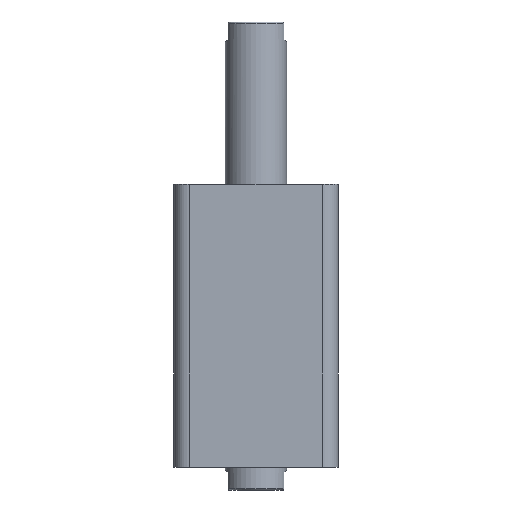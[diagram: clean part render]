
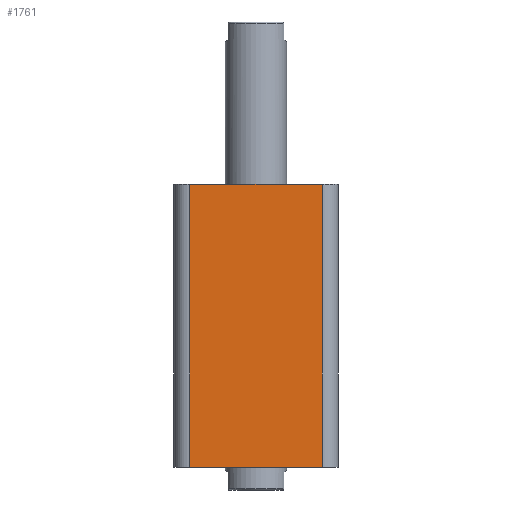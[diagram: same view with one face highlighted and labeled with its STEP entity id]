
A CAD part, front view. The second image highlights one B-rep face of the part: STEP entity #1761.
In plain terms, the highlighted planar face has unit normal (0, -1, 0).
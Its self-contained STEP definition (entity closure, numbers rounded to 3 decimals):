
#368 = EDGE_LOOP ( 'NONE', ( #2673, #2674, #2676, #2675 ) ) ;
#543 = CARTESIAN_POINT ( 'NONE',  ( -47., -47., 162. ) ) ;
#547 = PLANE ( 'NONE',  #3100 ) ;
#549 = DIRECTION ( 'NONE',  ( 0., 1., 0. ) ) ;
#550 = DIRECTION ( 'NONE',  ( 0., 0., 1. ) ) ;
#963 = CARTESIAN_POINT ( 'NONE',  ( -38., -47., 162. ) ) ;
#1052 = CARTESIAN_POINT ( 'NONE',  ( 38., -47., 0. ) ) ;
#1053 = CARTESIAN_POINT ( 'NONE',  ( -38., -47., 0. ) ) ;
#1065 = CARTESIAN_POINT ( 'NONE',  ( 38., -47., 162. ) ) ;
#1211 = VERTEX_POINT ( 'NONE', #963 ) ;
#1222 = VERTEX_POINT ( 'NONE', #1065 ) ;
#1225 = VERTEX_POINT ( 'NONE', #1053 ) ;
#1226 = VERTEX_POINT ( 'NONE', #1052 ) ;
#1467 = FACE_OUTER_BOUND ( 'NONE', #368, .T. ) ;
#1761 = ADVANCED_FACE ( 'NONE', ( #1467 ), #547, .F. ) ;
#1987 = LINE ( 'NONE', #2326, #2008 ) ;
#2008 = VECTOR ( 'NONE', #2331, 1000. ) ;
#2015 = LINE ( 'NONE', #2337, #2017 ) ;
#2016 = LINE ( 'NONE', #2347, #2019 ) ;
#2017 = VECTOR ( 'NONE', #2338, 1000. ) ;
#2019 = VECTOR ( 'NONE', #2349, 1000. ) ;
#2030 = LINE ( 'NONE', #2363, #2033 ) ;
#2033 = VECTOR ( 'NONE', #2364, 1000. ) ;
#2326 = CARTESIAN_POINT ( 'NONE',  ( 38., -47., 162. ) ) ;
#2331 = DIRECTION ( 'NONE',  ( 0., 0., 1. ) ) ;
#2337 = CARTESIAN_POINT ( 'NONE',  ( -38., -47., 162. ) ) ;
#2338 = DIRECTION ( 'NONE',  ( 0., 0., -1. ) ) ;
#2347 = CARTESIAN_POINT ( 'NONE',  ( -47., -47., 162. ) ) ;
#2349 = DIRECTION ( 'NONE',  ( 1., 0., 0. ) ) ;
#2363 = CARTESIAN_POINT ( 'NONE',  ( -47., -47., 0. ) ) ;
#2364 = DIRECTION ( 'NONE',  ( 1., 0., 0. ) ) ;
#2673 = ORIENTED_EDGE ( 'NONE', *, *, #2961, .F. ) ;
#2674 = ORIENTED_EDGE ( 'NONE', *, *, #2960, .T. ) ;
#2675 = ORIENTED_EDGE ( 'NONE', *, *, #2954, .T. ) ;
#2676 = ORIENTED_EDGE ( 'NONE', *, *, #2969, .T. ) ;
#2954 = EDGE_CURVE ( 'NONE', #1226, #1222, #1987, .T. ) ;
#2960 = EDGE_CURVE ( 'NONE', #1211, #1225, #2015, .T. ) ;
#2961 = EDGE_CURVE ( 'NONE', #1211, #1222, #2016, .T. ) ;
#2969 = EDGE_CURVE ( 'NONE', #1225, #1226, #2030, .T. ) ;
#3100 = AXIS2_PLACEMENT_3D ( 'NONE', #543, #549, #550 ) ;
